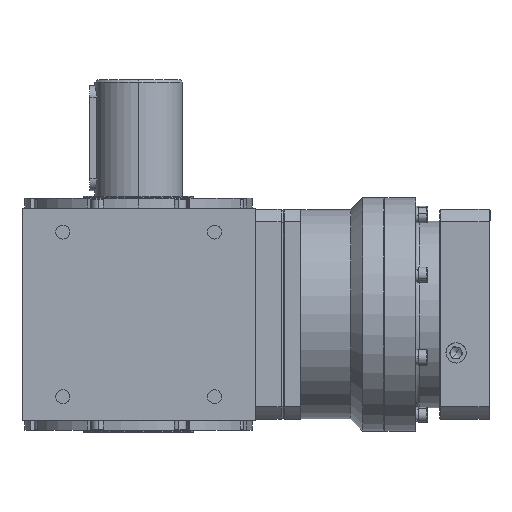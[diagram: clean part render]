
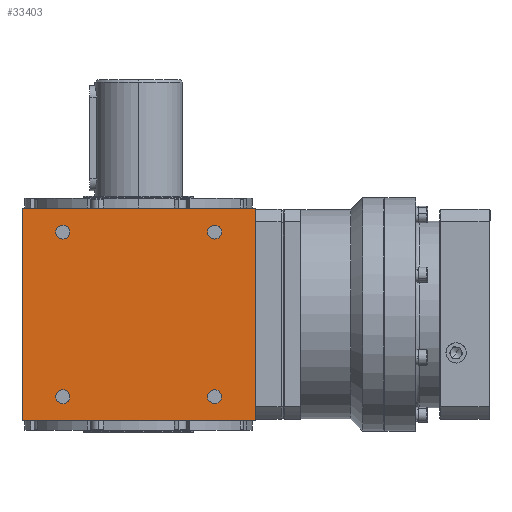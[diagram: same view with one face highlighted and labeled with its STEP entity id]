
A CAD part, left-side view. The second image highlights one B-rep face of the part: STEP entity #33403.
In plain terms, the highlighted planar face has unit normal (-1, 0, 0).
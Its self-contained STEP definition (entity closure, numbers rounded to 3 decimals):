
#829 = DIRECTION ( 'NONE',  ( 0., 0., 1. ) ) ;
#1040 = FACE_OUTER_BOUND ( 'NONE', #12397, .T. ) ;
#1355 = VERTEX_POINT ( 'NONE', #10369 ) ;
#1500 = VERTEX_POINT ( 'NONE', #29408 ) ;
#1661 = EDGE_CURVE ( 'NONE', #22557, #32065, #23036, .T. ) ;
#1719 = ORIENTED_EDGE ( 'NONE', *, *, #33368, .T. ) ;
#1823 = CARTESIAN_POINT ( 'NONE',  ( -100., -100., 91. ) ) ;
#2065 = EDGE_CURVE ( 'NONE', #1355, #35632, #3439, .T. ) ;
#2295 = DIRECTION ( 'NONE',  ( 0., -1., 0. ) ) ;
#2345 = DIRECTION ( 'NONE',  ( 0., -1., 0. ) ) ;
#2518 = AXIS2_PLACEMENT_3D ( 'NONE', #36056, #35860, #18190 ) ;
#2654 = AXIS2_PLACEMENT_3D ( 'NONE', #4179, #6978, #18912 ) ;
#2711 = ORIENTED_EDGE ( 'NONE', *, *, #4074, .T. ) ;
#3153 = DIRECTION ( 'NONE',  ( 1., 0., 0. ) ) ;
#3439 = LINE ( 'NONE', #18377, #8458 ) ;
#3833 = ORIENTED_EDGE ( 'NONE', *, *, #2065, .T. ) ;
#3889 = DIRECTION ( 'NONE',  ( 1., 0., 0. ) ) ;
#4074 = EDGE_CURVE ( 'NONE', #10400, #34972, #10138, .T. ) ;
#4179 = CARTESIAN_POINT ( 'NONE',  ( -100., -65., 70.5 ) ) ;
#4301 = ORIENTED_EDGE ( 'NONE', *, *, #15998, .T. ) ;
#4359 = AXIS2_PLACEMENT_3D ( 'NONE', #15054, #17637, #2295 ) ;
#4626 = CIRCLE ( 'NONE', #32529, 6. ) ;
#5550 = DIRECTION ( 'NONE',  ( 1., 0., 0. ) ) ;
#5615 = CIRCLE ( 'NONE', #4359, 6. ) ;
#6049 = DIRECTION ( 'NONE',  ( 0., -1., 0. ) ) ;
#6697 = ORIENTED_EDGE ( 'NONE', *, *, #8463, .T. ) ;
#6978 = DIRECTION ( 'NONE',  ( 1., 0., 0. ) ) ;
#7800 = AXIS2_PLACEMENT_3D ( 'NONE', #35750, #3889, #20861 ) ;
#7965 = CIRCLE ( 'NONE', #30158, 6. ) ;
#8021 = VERTEX_POINT ( 'NONE', #1823 ) ;
#8278 = AXIS2_PLACEMENT_3D ( 'NONE', #10232, #12624, #37054 ) ;
#8458 = VECTOR ( 'NONE', #6049, 1000. ) ;
#8463 = EDGE_CURVE ( 'NONE', #35632, #8021, #30464, .T. ) ;
#9931 = DIRECTION ( 'NONE',  ( 0., -1., 0. ) ) ;
#10018 = FACE_BOUND ( 'NONE', #13209, .T. ) ;
#10138 = CIRCLE ( 'NONE', #15222, 6. ) ;
#10232 = CARTESIAN_POINT ( 'NONE',  ( -100., 100., -91. ) ) ;
#10369 = CARTESIAN_POINT ( 'NONE',  ( -100., 100., -91. ) ) ;
#10400 = VERTEX_POINT ( 'NONE', #29584 ) ;
#11471 = EDGE_CURVE ( 'NONE', #27087, #14049, #33131, .T. ) ;
#12251 = CARTESIAN_POINT ( 'NONE',  ( -100., 71., 70.5 ) ) ;
#12397 = EDGE_LOOP ( 'NONE', ( #24764, #3833, #6697, #23949 ) ) ;
#12624 = DIRECTION ( 'NONE',  ( -1., 0., 0. ) ) ;
#13209 = EDGE_LOOP ( 'NONE', ( #39044, #4301 ) ) ;
#14049 = VERTEX_POINT ( 'NONE', #29061 ) ;
#15054 = CARTESIAN_POINT ( 'NONE',  ( -100., -65., 70.5 ) ) ;
#15222 = AXIS2_PLACEMENT_3D ( 'NONE', #21447, #33553, #18483 ) ;
#15387 = CARTESIAN_POINT ( 'NONE',  ( -100., -100., -91. ) ) ;
#15998 = EDGE_CURVE ( 'NONE', #20259, #23615, #4626, .T. ) ;
#16388 = CARTESIAN_POINT ( 'NONE',  ( -100., 59., -70.5 ) ) ;
#16850 = EDGE_LOOP ( 'NONE', ( #2711, #33923 ) ) ;
#17637 = DIRECTION ( 'NONE',  ( 1., 0., 0. ) ) ;
#17755 = CARTESIAN_POINT ( 'NONE',  ( -100., -59., -70.5 ) ) ;
#18010 = EDGE_LOOP ( 'NONE', ( #30273, #25877 ) ) ;
#18190 = DIRECTION ( 'NONE',  ( 0., -1., 0. ) ) ;
#18377 = CARTESIAN_POINT ( 'NONE',  ( -100., 0., -91. ) ) ;
#18483 = DIRECTION ( 'NONE',  ( 0., -1., 0. ) ) ;
#18912 = DIRECTION ( 'NONE',  ( 0., -1., 0. ) ) ;
#20184 = CARTESIAN_POINT ( 'NONE',  ( -100., 0., 91. ) ) ;
#20259 = VERTEX_POINT ( 'NONE', #20696 ) ;
#20696 = CARTESIAN_POINT ( 'NONE',  ( -100., 71., -70.5 ) ) ;
#20861 = DIRECTION ( 'NONE',  ( 0., -1., 0. ) ) ;
#20882 = VECTOR ( 'NONE', #37866, 1000. ) ;
#21405 = CARTESIAN_POINT ( 'NONE',  ( -100., 100., -91. ) ) ;
#21447 = CARTESIAN_POINT ( 'NONE',  ( -100., 65., 70.5 ) ) ;
#22237 = AXIS2_PLACEMENT_3D ( 'NONE', #33962, #3153, #9931 ) ;
#22457 = DIRECTION ( 'NONE',  ( 0., -1., 0. ) ) ;
#22557 = VERTEX_POINT ( 'NONE', #32482 ) ;
#22637 = DIRECTION ( 'NONE',  ( 1., 0., 0. ) ) ;
#23015 = EDGE_CURVE ( 'NONE', #23615, #20259, #7965, .T. ) ;
#23016 = ORIENTED_EDGE ( 'NONE', *, *, #1661, .T. ) ;
#23036 = CIRCLE ( 'NONE', #7800, 6. ) ;
#23615 = VERTEX_POINT ( 'NONE', #16388 ) ;
#23891 = LINE ( 'NONE', #20184, #20882 ) ;
#23949 = ORIENTED_EDGE ( 'NONE', *, *, #32023, .F. ) ;
#24545 = EDGE_CURVE ( 'NONE', #1355, #1500, #26782, .T. ) ;
#24764 = ORIENTED_EDGE ( 'NONE', *, *, #24545, .F. ) ;
#25877 = ORIENTED_EDGE ( 'NONE', *, *, #11471, .T. ) ;
#26782 = LINE ( 'NONE', #21405, #32818 ) ;
#27087 = VERTEX_POINT ( 'NONE', #31073 ) ;
#27303 = CIRCLE ( 'NONE', #22237, 6. ) ;
#28692 = FACE_BOUND ( 'NONE', #16850, .T. ) ;
#29006 = CARTESIAN_POINT ( 'NONE',  ( -100., 65., -70.5 ) ) ;
#29061 = CARTESIAN_POINT ( 'NONE',  ( -100., -71., 70.5 ) ) ;
#29408 = CARTESIAN_POINT ( 'NONE',  ( -100., 100., 91. ) ) ;
#29584 = CARTESIAN_POINT ( 'NONE',  ( -100., 59., 70.5 ) ) ;
#30158 = AXIS2_PLACEMENT_3D ( 'NONE', #29006, #5550, #2345 ) ;
#30200 = EDGE_CURVE ( 'NONE', #34972, #10400, #27303, .T. ) ;
#30273 = ORIENTED_EDGE ( 'NONE', *, *, #37915, .T. ) ;
#30464 = LINE ( 'NONE', #15387, #34212 ) ;
#31051 = CARTESIAN_POINT ( 'NONE',  ( -100., -100., -91. ) ) ;
#31073 = CARTESIAN_POINT ( 'NONE',  ( -100., -59., 70.5 ) ) ;
#32023 = EDGE_CURVE ( 'NONE', #1500, #8021, #23891, .T. ) ;
#32065 = VERTEX_POINT ( 'NONE', #17755 ) ;
#32482 = CARTESIAN_POINT ( 'NONE',  ( -100., -71., -70.5 ) ) ;
#32529 = AXIS2_PLACEMENT_3D ( 'NONE', #37557, #22637, #22457 ) ;
#32818 = VECTOR ( 'NONE', #33511, 1000. ) ;
#33131 = CIRCLE ( 'NONE', #2654, 6. ) ;
#33368 = EDGE_CURVE ( 'NONE', #32065, #22557, #37474, .T. ) ;
#33403 = ADVANCED_FACE ( 'NONE', ( #1040, #28692, #34039, #37441, #10018 ), #34251, .T. ) ;
#33511 = DIRECTION ( 'NONE',  ( 0., 0., 1. ) ) ;
#33553 = DIRECTION ( 'NONE',  ( 1., 0., 0. ) ) ;
#33923 = ORIENTED_EDGE ( 'NONE', *, *, #30200, .T. ) ;
#33962 = CARTESIAN_POINT ( 'NONE',  ( -100., 65., 70.5 ) ) ;
#34039 = FACE_BOUND ( 'NONE', #18010, .T. ) ;
#34212 = VECTOR ( 'NONE', #829, 1000. ) ;
#34251 = PLANE ( 'NONE',  #8278 ) ;
#34972 = VERTEX_POINT ( 'NONE', #12251 ) ;
#35632 = VERTEX_POINT ( 'NONE', #31051 ) ;
#35750 = CARTESIAN_POINT ( 'NONE',  ( -100., -65., -70.5 ) ) ;
#35860 = DIRECTION ( 'NONE',  ( 1., 0., 0. ) ) ;
#36056 = CARTESIAN_POINT ( 'NONE',  ( -100., -65., -70.5 ) ) ;
#36497 = EDGE_LOOP ( 'NONE', ( #23016, #1719 ) ) ;
#37054 = DIRECTION ( 'NONE',  ( 0., -1., 0. ) ) ;
#37441 = FACE_BOUND ( 'NONE', #36497, .T. ) ;
#37474 = CIRCLE ( 'NONE', #2518, 6. ) ;
#37557 = CARTESIAN_POINT ( 'NONE',  ( -100., 65., -70.5 ) ) ;
#37866 = DIRECTION ( 'NONE',  ( 0., -1., 0. ) ) ;
#37915 = EDGE_CURVE ( 'NONE', #14049, #27087, #5615, .T. ) ;
#39044 = ORIENTED_EDGE ( 'NONE', *, *, #23015, .T. ) ;
